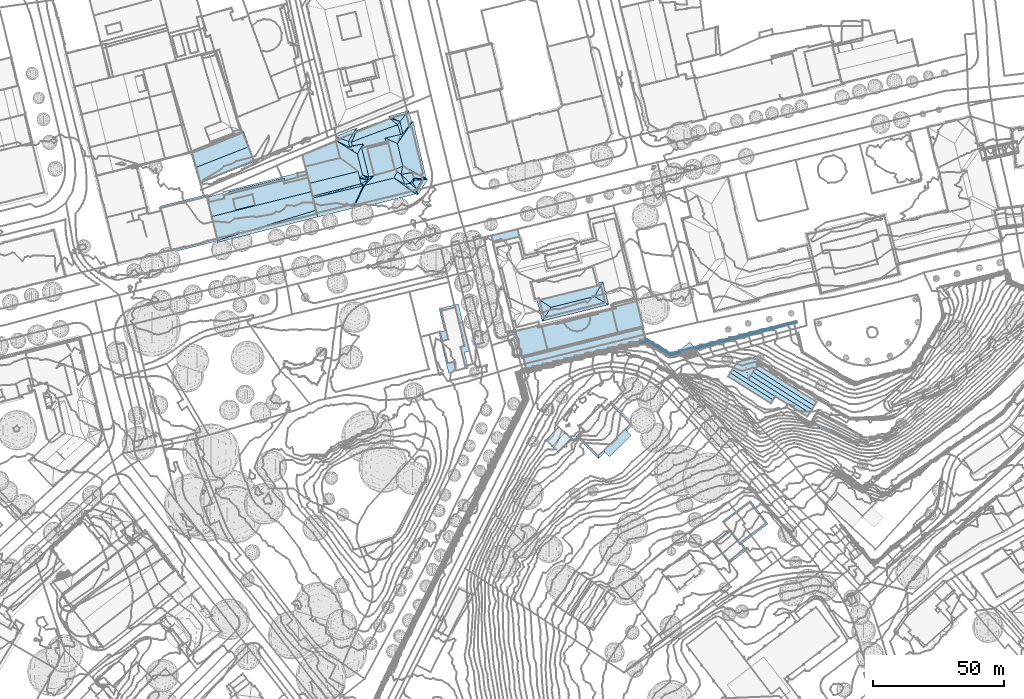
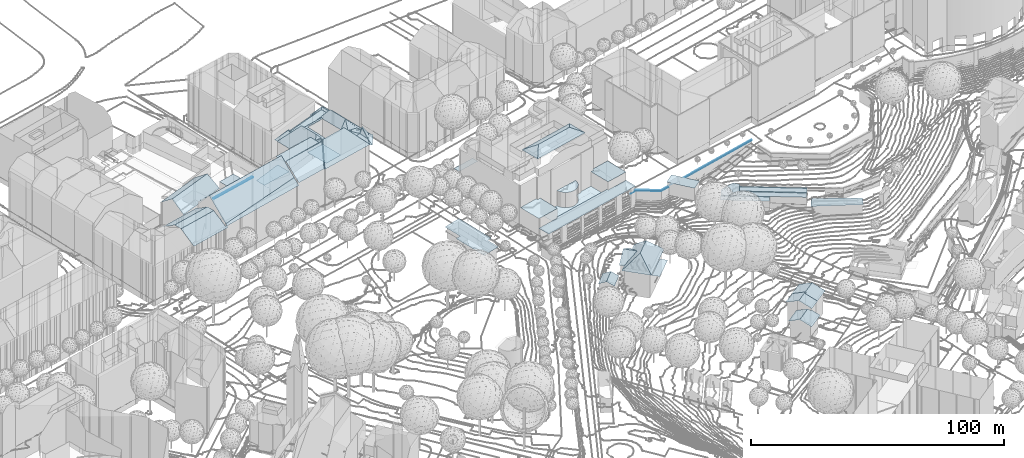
# Not in any storey, part 71 of 494: 29 roofs.
"""IFC2X3 model written with IfcOpenShell, lengths in metres."""

from ifc_helpers import new_model, si_unit, frame, origin_with_axes, place, context, subcontext, project, faceted_brep, element, save


model = new_model("IFC2X3")

# Units and contexts
model_context = context("Model", 3, precision=1e-05, world=origin_with_axes())
body_context = subcontext(model_context, "Body", "Model", "MODEL_VIEW")
ifc_project = project(units=[si_unit("AREAUNIT", "SQUARE_METRE"), si_unit("LENGTHUNIT", "METRE")], contexts=[model_context])

# Roofs
roof_1_placement = place(None, frame((211.8297320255, 101.9383160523, 526.7541), z_axis=(0.0, 0.0, 1.0), x_axis=(1.0, 0.0, 0.0)))
element("IfcRoof", 1, at=roof_1_placement, Name="Roof 59", ShapeType="NOTDEFINED", context=body_context, shape_type="Brep", body=[
    faceted_brep([(166.575000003, 220.0331999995, 13.5499), (166.9350000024, 219.5927999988, 13.5499), (205.8740000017, 229.5947000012, 13.5498), (161.3360000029, 218.8623000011, 13.5499), (169.6170000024, 220.9891999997, 13.5499), (205.7030000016, 230.2597000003, 13.5498)], [[[0, 1, 2]], [[3, 0, 4]], [[0, 5, 4]], [[5, 0, 2]]]),
])
roof_2_placement = place(None, frame((211.8297320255, 101.9383160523, 526.7541), z_axis=(0.0, 0.0, 1.0), x_axis=(1.0, 0.0, 0.0)))
element("IfcRoof", 2, at=roof_2_placement, Name="Roof 60", ShapeType="NOTDEFINED", context=body_context, shape_type="Brep", body=[
    faceted_brep([(146.0230000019, 221.7236000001, 13.5499), (147.1669999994, 222.0751999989, 13.5499), (146.006000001, 221.7910000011, 13.5499), (148.7010000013, 222.3691000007, 13.5499), (147.8399999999, 223.0126999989, 13.5499), (147.9849999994, 222.4013999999, 13.5499), (148.6390000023, 223.2098999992, 13.5499), (157.3320000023, 217.1259999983, 13.5499), (161.393000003, 218.1689000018, 13.5499), (160.9150000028, 218.754900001, 13.5499), (157.4409999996, 217.8623000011, 13.5499)], [[[0, 1, 2]], [[1, 0, 3]], [[4, 5, 6]], [[1, 3, 5]], [[7, 8, 9]], [[7, 9, 10]], [[10, 6, 3]], [[3, 6, 5]], [[3, 7, 10]]]),
])
roof_3_placement = place(None, frame((389.7587320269, 255.2674160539, 507.648), z_axis=(0.0, 0.0, 1.0), x_axis=(1.0, 0.0, 0.0)))
element("IfcRoof", 3, at=roof_3_placement, Name="Roof 0", ShapeType="NOTDEFINED", context=body_context, shape_type="Brep", body=[
    faceted_brep([(4.9050000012, 3.7089999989, 10.9299), (4.5109999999, 4.2304999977, 10.661), (-0.7430000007, 0.2694999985, 10.661), (7.9470000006, -0.308600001, 13.0067), (2.6840000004, -4.2754000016, 13.0067), (7.436999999, -1.125, 12.8617), (10.2269999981, -4.8115000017, 10.9179), (8.1559999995, -0.5850000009, 12.8607), (6.0439999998, -8.7314999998, 10.6609), (10.5969999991, -5.2998000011, 10.6609)], [[[0, 1, 2]], [[3, 0, 4]], [[2, 4, 0]], [[5, 4, 6]], [[3, 5, 7]], [[5, 3, 4]], [[6, 8, 9]], [[6, 4, 8]]]),
])
roof_4_placement = place(None, frame((394.6637320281, 258.9764160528, 507.648), z_axis=(0.0, 0.0, 1.0), x_axis=(1.0, 0.0, 0.0)))
element("IfcRoof", 4, at=roof_4_placement, Name="Roof 0", ShapeType="NOTDEFINED", context=body_context, shape_type="Brep", body=[
    faceted_brep([(8.5749999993, 0.1543000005, 13.0067), (5.1479999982, 4.6992000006, 10.661), (0.0, 0.0, 10.9299), (3.0419999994, -4.0175999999, 13.0067), (-0.3940000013, 0.5214999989, 10.661), (3.2509999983, -4.2939999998, 12.8607), (2.5319999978, -4.8339999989, 12.8617), (5.3219999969, -8.5205000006, 10.9179), (5.6919999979, -9.0088, 10.6609), (11.9340000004, -4.3018000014, 10.6609)], [[[0, 1, 2]], [[0, 2, 3]], [[2, 1, 4]], [[5, 6, 7]], [[7, 8, 9]], [[5, 9, 0]], [[9, 5, 7]], [[5, 0, 3]]]),
])
roof_5_placement = place(None, frame((386.3977320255, 247.3445160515, 507.147), z_axis=(0.0, 0.0, 1.0), x_axis=(1.0, 0.0, 0.0)))
element("IfcRoof", 5, at=roof_5_placement, Name="Roof 0", ShapeType="NOTDEFINED", context=body_context, shape_type="Brep", body=[
    faceted_brep([(6.0480000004, 4.5782000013, 8.3482), (5.950000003, 4.504900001, 8.3482), (7.0370000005, 3.2734999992, 9.0562), (2.6130000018, -3.4569999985, 10.229), (8.0980000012, 1.8731000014, 9.8171), (8.6740000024, 1.1132999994, 10.229), (5.5989999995, 4.9678000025, 8.0962), (-0.7829999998, 0.1563000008, 8.0962), (2.1840000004, -3.7802000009, 10.229), (12.2180000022, -2.5995999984, 8.0962), (9.4880000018, 0.0381000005, 9.6651), (5.2540000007, -7.8506000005, 8.0962), (9.9620000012, 0.3936000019, 9.6641)], [[[0, 1, 2]], [[3, 4, 2]], [[5, 4, 3]], [[1, 6, 7]], [[7, 2, 1]], [[8, 2, 7]], [[2, 8, 3]], [[9, 10, 11]], [[11, 10, 3]], [[8, 11, 3]], [[10, 5, 3]], [[9, 12, 10]]]),
])
roof_6_placement = place(None, frame((281.5977320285, 336.7850160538, 537.4764), z_axis=(0.0, 0.0, 1.0), x_axis=(1.0, 0.0, 0.0)))
element("IfcRoof", 6, at=roof_6_placement, Name="Roof 0", ShapeType="NOTDEFINED", context=body_context, shape_type="Brep", body=[
    faceted_brep([(8.993999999, -16.6152999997, 5.9413), (10.9890000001, -16.1358000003, 6.0503), (6.6339999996, 1.9403999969, 6.0504), (2.8789999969, -24.4356000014, 5.5294), (10.4389999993, -22.6133000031, 5.9413), (1.2559999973, -8.3057000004, 5.6454), (-0.7810000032, 0.1542999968, 5.6454), (-0.8840000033, -8.8203000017, 5.5294)], [[[0, 1, 2]], [[3, 4, 0]], [[0, 5, 3]], [[2, 6, 5]], [[5, 7, 3]], [[2, 5, 0]]]),
])
roof_7_placement = place(None, frame((334.3647320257, 288.1229160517, 521.6208), z_axis=(0.0, 0.0, 1.0), x_axis=(1.0, 0.0, 0.0)))
element("IfcRoof", 7, at=roof_7_placement, Name="Roof 0", ShapeType="NOTDEFINED", context=body_context, shape_type="Brep", body=[
    faceted_brep([(17.6900000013, 2.6709000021, 9.15), (9.3560000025, -5.5156999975, 9.15), (11.6319999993, -7.8271999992, 9.15), (19.9560000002, 0.3720000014, 9.15)], [[[0, 1, 2]], [[3, 0, 2]]]),
])
roof_8_placement = place(None, frame((334.3647320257, 288.1229160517, 521.6208), z_axis=(0.0, 0.0, 1.0), x_axis=(1.0, 0.0, 0.0)))
element("IfcRoof", 8, at=roof_8_placement, Name="Roof 1", ShapeType="NOTDEFINED", context=body_context, shape_type="Brep", body=[
    faceted_brep([(7.3910000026, -8.6015999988, 11.6748), (20.8610000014, 4.6678999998, 11.6748), (7.2990000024, -7.4619999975, 12.5817), (0.0529999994, -0.053799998, 12.6237), (-1.1529999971, 0.0760999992, 11.6748), (6.762000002, -0.7773999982, 17.9022), (1.6339999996, 2.5223999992, 11.8888), (8.2280000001, 4.1484000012, 15.3955), (1.2310000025, 2.4237999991, 11.6748), (13.1119999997, 5.4785000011, 17.9012), (12.444000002, 12.0898000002, 12.6667), (9.7870000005, 10.3857000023, 12.0108), (9.9420000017, 11.0058000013, 11.6748), (12.3170000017, 13.3436999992, 11.6748), (4.5730000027, 7.8612999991, 15.3955), (8.5670000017, 12.4013000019, 11.6748), (4.2690000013, 8.1689000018, 15.3955), (-0.1459999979, 3.821200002, 11.6748), (19.6040000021, 4.7998000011, 12.6847)], [[[0, 1, 2]], [[3, 4, 2]], [[2, 5, 3]], [[0, 2, 4]], [[6, 3, 7]], [[3, 8, 4]], [[8, 3, 6]], [[3, 5, 7]], [[7, 9, 10]], [[9, 7, 5]], [[7, 10, 11]], [[10, 12, 11]], [[12, 10, 13]], [[14, 7, 15]], [[16, 14, 15]], [[11, 12, 15]], [[11, 15, 7]], [[17, 8, 6]], [[17, 6, 14]], [[17, 14, 16]], [[14, 6, 7]], [[2, 18, 9]], [[2, 9, 5]], [[2, 1, 18]], [[18, 1, 10]], [[10, 9, 18]], [[13, 10, 1]]]),
])
roof_9_placement = place(None, frame((321.8457320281, 286.6092160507, 525.7514), z_axis=(0.0, 0.0, 1.0), x_axis=(1.0, 0.0, 0.0)))
element("IfcRoof", 9, at=roof_9_placement, Name="Roof 0", ShapeType="NOTDEFINED", context=body_context, shape_type="Brep", body=[
    faceted_brep([(2.1219999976, -2.3954999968, 7.8402), (4.5009999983, -4.6552999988, 6.2383), (7.2049999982, 2.9580000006, 7.8402), (9.5849999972, 0.6982000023, 6.2383), (4.807, 5.2344000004, 6.2384), (-0.2760000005, -0.1181999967, 6.2384)], [[[0, 1, 2]], [[3, 2, 1]], [[2, 4, 5]], [[5, 0, 2]]]),
])
roof_10_placement = place(None, frame((423.4767320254, 293.5516160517, 522.4066), z_axis=(0.0, 0.0, 1.0), x_axis=(1.0, 0.0, 0.0)))
element("IfcRoof", 10, at=roof_10_placement, Name="Roof 0", ShapeType="NOTDEFINED", context=body_context, shape_type="Brep", body=[
    faceted_brep([(1.8740000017, 4.5527000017, 7.4133), (-0.9709999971, -0.1425999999, 7.4133), (13.1080000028, -1.6152999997, 7.4133), (17.5460000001, -9.4072999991, 7.4132), (19.5710000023, -5.1651000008, 7.4132)], [[[0, 1, 2]], [[2, 3, 4]], [[3, 2, 1]]]),
])
roof_11_placement = place(None, frame((300.9637320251, 364.7801160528, 537.8963), z_axis=(0.0, 0.0, 1.0), x_axis=(1.0, 0.0, 0.0)))
element("IfcRoof", 11, at=roof_11_placement, Name="Roof 0", ShapeType="NOTDEFINED", context=body_context, shape_type="Brep", body=[
    faceted_brep([(46.1230000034, -28.1807000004, 1.8858), (40.6290000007, -29.5410000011, 1.8858), (40.7200000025, -29.9072000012, 1.8858), (48.307, -36.9941999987, 1.8857), (37.7380000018, -31.495099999, 1.8858), (37.6600000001, -32.3828000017, 1.8858), (37.6650000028, -30.6640999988, 1.8858), (37.4299999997, -33.2432000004, 1.8858), (37.0540000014, -34.0507999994, 1.8858), (36.2420000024, -35.1084000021, 1.8858), (35.5590000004, -35.6816999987, 1.8858), (34.376000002, -36.2978999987, 1.8858), (33.5160000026, -36.5274000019, 1.8858), (27.9980000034, -33.6552999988, 1.8858), (27.7990000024, -33.1084000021, 1.8858), (24.6359999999, -33.8925999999, 1.8858), (28.443, -34.4268000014, 1.8858), (24.5450000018, -33.5263999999, 1.8858), (19.2240000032, -34.8456999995, 1.8858), (29.0160000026, -35.1084000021, 1.8858), (21.4079999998, -43.6601999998, 1.8858), (32.6290000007, -36.6055000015, 1.8858), (31.7410000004, -36.5274000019, 1.8858), (30.074000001, -35.9199000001, 1.8858), (30.881000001, -36.2978999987, 1.8858)], [[[0, 1, 2]], [[3, 0, 2]], [[4, 5, 2]], [[6, 4, 2]], [[7, 2, 5]], [[3, 7, 8]], [[7, 3, 2]], [[3, 8, 9]], [[10, 11, 3]], [[9, 10, 3]], [[3, 11, 12]], [[13, 14, 15]], [[16, 13, 15]], [[15, 17, 18]], [[16, 15, 19]], [[20, 15, 18]], [[21, 22, 20]], [[12, 21, 20]], [[23, 19, 20]], [[24, 20, 22]], [[20, 24, 23]], [[19, 15, 20]], [[12, 20, 3]]]),
])
roof_12_placement = place(None, frame((300.9637320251, 364.7801160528, 537.8963), z_axis=(0.0, 0.0, 1.0), x_axis=(1.0, 0.0, 0.0)))
element("IfcRoof", 12, at=roof_12_placement, Name="Roof 1", ShapeType="NOTDEFINED", context=body_context, shape_type="Brep", body=[
    faceted_brep([(11.7410000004, -46.7881000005, 9.588), (21.5789999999, -44.3506000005, 9.588), (17.8630000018, -35.182599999, 9.588), (9.1720000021, -36.5390999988, 9.588), (17.6770000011, -34.4316999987, 9.588), (19.2240000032, -34.8456999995, 9.588)], [[[0, 1, 2]], [[2, 3, 0]], [[3, 2, 4]], [[5, 2, 1]]]),
])
roof_13_placement = place(None, frame((300.9637320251, 364.7801160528, 537.8963), z_axis=(0.0, 0.0, 1.0), x_axis=(1.0, 0.0, 0.0)))
element("IfcRoof", 13, at=roof_13_placement, Name="Roof 2", ShapeType="NOTDEFINED", context=body_context, shape_type="Brep", body=[
    faceted_brep([(47.5280000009, -27.8321000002, 8.9001), (55.5190000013, -25.0557000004, 8.9001), (47.3420000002, -27.0811000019, 8.9001), (48.4780000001, -37.6865000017, 8.9001), (58.0370000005, -35.317400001, 8.9001), (46.1230000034, -28.1807000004, 8.9001)], [[[0, 1, 2]], [[0, 3, 4]], [[3, 0, 5]], [[0, 4, 1]]]),
])
roof_14_placement = place(None, frame((300.9637320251, 364.7801160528, 537.8963), z_axis=(0.0, 0.0, 1.0), x_axis=(1.0, 0.0, 0.0)))
element("IfcRoof", 14, at=roof_14_placement, Name="Roof 3", ShapeType="NOTDEFINED", context=body_context, shape_type="Brep", body=[
    faceted_brep([(58.0370000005, -35.317400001, 4.9124), (48.4780000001, -37.6865000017, 4.9124), (59.3660000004, -40.7344000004, 4.9124), (21.5789999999, -44.3506000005, 4.9125), (48.307, -36.9941999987, 4.9124), (12.2380000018, -46.6172000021, 4.9125), (11.7280000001, -46.7373000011, 4.9125), (12.2490000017, -46.6621000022, 4.9125), (13.0970000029, -52.1983000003, 4.9125), (21.4079999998, -43.6601999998, 4.9125)], [[[0, 1, 2]], [[2, 1, 3]], [[4, 3, 1]], [[5, 6, 7]], [[3, 7, 8]], [[8, 7, 6]], [[3, 8, 2]], [[9, 3, 4]]]),
])
roof_15_placement = place(None, frame((300.9637320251, 364.7801160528, 537.8963), z_axis=(0.0, 0.0, 1.0), x_axis=(1.0, 0.0, 0.0)))
element("IfcRoof", 15, at=roof_15_placement, Name="Roof 4", ShapeType="NOTDEFINED", context=body_context, shape_type="Brep", body=[
    faceted_brep([(41.8160000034, -18.8251999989, 27.5583), (42.5380000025, -17.5811000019, 26.9544), (17.1660000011, -23.8672000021, 26.9544), (39.2520000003, -23.246100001, 29.7051), (18.3850000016, -24.6319000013, 27.5583), (22.7170000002, -27.3438000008, 29.7051), (19.3300000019, -32.6015999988, 27.0464), (20.120000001, -31.375, 27.6663), (43.432, -25.6006000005, 27.6663), (44.7020000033, -26.3154000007, 27.0463)], [[[0, 1, 2]], [[3, 0, 4]], [[3, 4, 5]], [[4, 0, 2]], [[4, 2, 6]], [[4, 7, 5]], [[7, 4, 6]], [[7, 6, 8]], [[5, 7, 3]], [[7, 8, 3]], [[8, 6, 9]], [[8, 9, 0]], [[8, 0, 3]], [[0, 9, 1]]]),
])
roof_16_placement = place(None, frame((300.9637320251, 364.7801160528, 537.8963), z_axis=(0.0, 0.0, 1.0), x_axis=(1.0, 0.0, 0.0)))
element("IfcRoof", 16, at=roof_16_placement, Name="Roof 5", ShapeType="NOTDEFINED", context=body_context, shape_type="Brep", body=[
    faceted_brep([(37.6600000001, -32.3828000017, 9.1841), (29.0160000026, -35.1084000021, 9.1841), (37.4299999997, -33.2432000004, 9.1841), (30.074000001, -35.9199000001, 9.1841), (37.0540000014, -34.0507999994, 9.1841), (28.443, -34.4268000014, 9.1841), (37.7380000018, -31.495099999, 9.1841), (31.7410000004, -36.5274000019, 9.1841), (35.5590000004, -35.6816999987, 9.1841), (36.2420000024, -35.1084000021, 9.1841), (32.6290000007, -36.6055000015, 9.1841), (34.376000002, -36.2978999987, 9.1841), (30.881000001, -36.2978999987, 9.1841), (37.6650000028, -30.6640999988, 9.1841), (27.9980000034, -33.6552999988, 9.1841), (33.5160000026, -36.5274000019, 9.1841), (27.7990000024, -33.1084000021, 9.1841)], [[[0, 1, 2]], [[2, 3, 4]], [[5, 0, 6]], [[7, 8, 9]], [[10, 11, 8]], [[12, 9, 4]], [[6, 13, 14]], [[5, 1, 0]], [[14, 5, 6]], [[3, 2, 1]], [[15, 11, 10]], [[7, 10, 8]], [[9, 12, 7]], [[3, 12, 4]], [[14, 13, 16]]]),
])
roof_17_placement = place(None, frame((300.9637320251, 364.7801160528, 537.8963), z_axis=(0.0, 0.0, 1.0), x_axis=(1.0, 0.0, 0.0)))
element("IfcRoof", 17, at=roof_17_placement, Name="Roof 12", ShapeType="NOTDEFINED", context=body_context, shape_type="Brep", body=[
    faceted_brep([(10.6750000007, -0.3858000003, 9.4711), (9.9670000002, 2.4765000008, 9.4711), (0.7080000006, -2.8544999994, 9.4711), (0.0, 0.0, 9.4711)], [[[0, 1, 2]], [[3, 2, 1]]]),
])
roof_18_placement = place(None, frame((372.7347320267, 320.7049160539, 536.4583), z_axis=(0.0, 0.0, 1.0), x_axis=(1.0, 0.0, 0.0)))
element("IfcRoof", 18, at=roof_18_placement, Name="Roof 0", ShapeType="NOTDEFINED", context=body_context, shape_type="Brep", body=[
    faceted_brep([(7.2459999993, -9.067400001, 5.9384), (11.4770000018, -5.6425999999, 5.9384), (3.9670000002, 3.5175999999, 5.9385), (-0.2459999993, 0.0848999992, 5.9385)], [[[0, 1, 2]], [[2, 3, 0]]]),
])
roof_19_placement = place(None, frame((391.3277320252, 310.9148160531, 527.1172), z_axis=(0.0, 0.0, 1.0), x_axis=(1.0, 0.0, 0.0)))
element("IfcRoof", 19, at=roof_19_placement, Name="Roof 0", ShapeType="NOTDEFINED", context=body_context, shape_type="Brep", body=[
    faceted_brep([(31.2369999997, -13.9023000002, 6.9823), (32.0840000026, -12.5615000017, 6.0964), (9.5300000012, 1.6796999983, 6.0964), (8.6830000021, 0.3378999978, 6.9823), (30.3090000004, -15.3720000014, 6.0964), (18.0890000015, -7.6561999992, 6.0964), (7.7550000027, -1.1308000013, 6.0964), (8.2710000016, 6.7128999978, 6.6644), (4.3859999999, 5.6865999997, 6.6644), (6.700000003, 4.2256000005, 6.6644), (11.2880000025, 4.4638999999, 6.0964), (9.9020000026, 7.1435999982, 6.4904), (12.0410000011, 5.6563000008, 6.0964), (11.0810000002, 4.1347999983, 6.0964), (7.9640000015, -0.7987999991, 6.0964), (9.3390000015, 1.3770000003, 6.0964), (9.7420000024, 2.0156999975, 6.0964), (10.4189999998, 3.0869999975, 6.9343), (33.8420000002, -9.7773000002, 6.0964), (32.9730000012, -11.1543000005, 6.9343), (1.700000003, 2.691399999, 6.0964), (0.9010000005, 1.4267999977, 6.9543), (17.2910000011, -8.9199000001, 6.9543), (3.4290000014, 5.433600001, 6.5614), (0.0, 9.9998e-05, 6.0964), (16.3900000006, -10.3465999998, 6.0964)], [[[0, 1, 2]], [[2, 3, 0]], [[4, 0, 5]], [[5, 3, 6]], [[3, 5, 0]], [[7, 8, 9]], [[10, 11, 7]], [[10, 7, 9]], [[10, 12, 11]], [[13, 10, 9]], [[9, 14, 15]], [[13, 9, 16]], [[2, 9, 15]], [[9, 2, 16]], [[14, 9, 6]], [[10, 17, 18]], [[19, 18, 17]], [[1, 19, 17]], [[17, 2, 1]], [[20, 21, 6]], [[6, 22, 5]], [[22, 6, 21]], [[23, 20, 6]], [[23, 9, 8]], [[9, 23, 6]], [[21, 24, 25]], [[25, 22, 21]]]),
])
roof_20_placement = place(None, frame((228.7347320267, 395.6180160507, 538.6455), z_axis=(0.0, 0.0, 1.0), x_axis=(1.0, 0.0, 0.0)))
element("IfcRoof", 20, at=roof_20_placement, Name="Roof 0", ShapeType="NOTDEFINED", context=body_context, shape_type="Brep", body=[
    faceted_brep([(19.625, -19.1503999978, 21.6717), (23.1460000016, -11.6894999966, 27.3042), (18.6689999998, -18.9736999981, 22.0267), (3.9670000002, -16.4013999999, 27.3472), (16.0890000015, -19.6074999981, 22.0277), (5.0789999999, -21.0566999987, 23.1126), (22.2609999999, -10.9980999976, 26.7853), (3.8020000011, -15.7118999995, 26.6483), (3.3779999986, -13.9375, 26.6823), (21.7710000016, -8.9531999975, 26.7273), (2.6319999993, -10.807599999, 26.7433), (21.1030000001, -6.2157999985, 26.7433), (1.1110000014, -4.4423999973, 20.396), (14.3409999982, -1.1757999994, 20.396), (42.8729999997, -12.9179999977, 22.1237), (42.9620000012, -13.4443999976, 21.6717), (43.4210000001, -12.9111999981, 22.1227), (43.3740000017, -13.3447999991, 21.7527), (43.2060000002, -14.8945999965, 20.4278), (41.2419999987, -13.1210999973, 22.2337), (39.0839999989, -11.1718999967, 24.2185), (40.9609999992, -10.7743999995, 24.3575), (37.5469999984, -7.2978999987, 24.8404), (21.995000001, -18.7148999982, 22.1097), (19.2030000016, -20.8740999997, 20.8098), (43.2060000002, -14.8945999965, 20.8098), (41.7280000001, -13.8037, 22.1067), (34.8830000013, -8.7490999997, 28.1121), (20.2829999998, -18.5761999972, 22.6206), (23.5579999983, -11.6083999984, 28.1121), (5.4219999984, -22.4912, 21.8347), (5.7060000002, -23.6816999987, 20.7758), (19.0709999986, -20.3359999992, 20.7788), (42.1039999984, -10.6269999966, 26.5843), (42.4719999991, -8.6963, 24.3585), (27.3429999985, -7.7919999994, 24.8124), (35.2960000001, -5.6269999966, 24.7074), (36.1510000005, -6.3896999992, 25.7693), (41.8900000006, -13.7060999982, 21.8977)], [[[0, 1, 2]], [[3, 2, 1]], [[0, 2, 4]], [[4, 3, 5]], [[3, 4, 2]], [[3, 1, 6]], [[3, 6, 7]], [[8, 6, 9]], [[6, 8, 7]], [[10, 9, 11]], [[9, 10, 8]], [[11, 12, 10]], [[12, 11, 13]], [[14, 15, 16]], [[17, 16, 15]], [[18, 17, 15]], [[19, 18, 15]], [[20, 15, 14]], [[20, 19, 15]], [[20, 14, 21]], [[21, 22, 20]], [[23, 24, 25]], [[26, 27, 23]], [[25, 26, 23]], [[28, 24, 23]], [[27, 29, 28]], [[27, 28, 23]], [[30, 31, 4]], [[5, 30, 4]], [[4, 32, 0]], [[32, 4, 31]], [[29, 1, 0]], [[29, 6, 1]], [[28, 29, 0]], [[0, 24, 28]], [[24, 0, 32]], [[33, 34, 21]], [[16, 33, 21]], [[21, 14, 16]], [[35, 27, 36]], [[29, 27, 35]], [[36, 27, 37]], [[20, 27, 38]], [[26, 25, 38]], [[26, 38, 27]]]),
])
roof_21_placement = place(None, frame((228.7347320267, 395.6180160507, 538.6455), z_axis=(0.0, 0.0, 1.0), x_axis=(1.0, 0.0, 0.0)))
element("IfcRoof", 21, at=roof_21_placement, Name="Roof 1", ShapeType="NOTDEFINED", context=body_context, shape_type="Brep", body=[
    faceted_brep([(27.3429999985, -7.7919999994, 12.8646), (35.2960000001, -5.6269999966, 12.8646), (24.7540000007, 2.5117000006, 12.8647), (32.8029999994, 4.5224000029, 12.8647)], [[[0, 1, 2]], [[3, 2, 1]]]),
])
roof_22_placement = place(None, frame((228.7347320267, 395.6180160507, 538.6455), z_axis=(0.0, 0.0, 1.0), x_axis=(1.0, 0.0, 0.0)))
element("IfcRoof", 22, at=roof_22_placement, Name="Roof 2", ShapeType="NOTDEFINED", context=body_context, shape_type="Brep", body=[
    faceted_brep([(12.7360000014, 5.2226000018, 9.4711), (0.0, 0.0, 9.4711), (12.7609999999, 5.0957000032, 9.4711), (1.1110000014, -4.4423999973, 9.4711), (14.3409999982, -1.1757999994, 9.4711), (1.8299999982, -7.4208999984, 9.4709), (1.436999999, -6.2275999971, 9.4709), (1.4510000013, -6.2812999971, 9.4709), (1.7210000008, -7.4491999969, 9.4709)], [[[0, 1, 2]], [[3, 4, 2]], [[2, 1, 3]], [[5, 6, 7]], [[6, 3, 1]], [[7, 8, 5]], [[5, 3, 6]]]),
])
roof_23_placement = place(None, frame((228.7347320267, 395.6180160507, 538.6455), z_axis=(0.0, 0.0, 1.0), x_axis=(1.0, 0.0, 0.0)))
element("IfcRoof", 23, at=roof_23_placement, Name="Roof 3", ShapeType="NOTDEFINED", context=body_context, shape_type="Brep", body=[
    faceted_brep([(24.7540000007, 2.5117000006, 25.1536), (32.8949999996, 4.5459000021, 25.0356), (32.8649999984, 5.2031000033, 25.1636), (32.8720000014, 5.2431000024, 25.1706), (32.8740000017, 5.3310000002, 25.1746), (23.4340000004, 2.9277000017, 25.1876), (23.0590000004, 4.2256000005, 23.8787), (23.4340000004, 2.9277000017, 23.8787), (31.7120000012, 5.0254000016, 23.8787), (18.9479999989, 3.5537, 23.8787), (18.5760000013, 4.9287, 23.8787), (22.1730000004, 6.3720000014, 23.8787), (25.936999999, 7.7832000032, 23.8787), (31.4820000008, 6.4970000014, 23.8787), (37.4210000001, 7.9004000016, 23.8787), (29.6770000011, 9.1865000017, 23.8787), (36.3379999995, 11.5918000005, 23.8787), (21.1499999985, 8.9306000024, 21.2969), (20.8729999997, 9.6240000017, 20.598), (19.8900000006, 8.5215000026, 21.7129), (20.5659999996, 10.371100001, 20.598), (38.2259999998, 8.0517000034, 24.3356), (37.1790000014, 12.826100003, 24.3256), (33.3299999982, 13.9375, 20.906), (33.0179999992, 14.1806000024, 20.598), (32.6750000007, 13.6689000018, 20.934), (13.1319999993, 5.5293000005, 20.955), (17.9719999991, 2.9267000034, 24.3256), (17.449000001, 5.2617000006, 24.3026), (12.6710000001, 5.558600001, 20.598), (12.3779999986, 7.0556000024, 20.598), (19.2870000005, 8.2744000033, 22.1179), (21.7710000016, -8.9531999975, 26.7273), (24.8509999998, -9.5175999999, 26.3523), (24.6409999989, -8.6933999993, 26.6483), (22.2609999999, -10.9980999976, 26.7853), (23.5579999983, -11.6083999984, 28.1121), (27.3429999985, -7.7919999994, 24.8124), (22.5219999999, 2.7060000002, 25.1776), (25.2419999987, -8.3622999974, 24.8324), (42.4719999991, -8.6963, 24.3585), (45.6339999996, -9.4638999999, 22.1227), (45.1660000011, -8.9941999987, 22.1237), (42.0009999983, -6.7197999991, 24.2085), (37.5469999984, -7.2978999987, 24.8404), (42.0009999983, -6.7197999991, 24.2475), (40.9609999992, -10.7743999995, 24.3575), (47.2309999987, -8.9111999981, 20.5148), (45.875, -8.3437999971, 21.4727), (45.7699999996, -8.9706999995, 21.6527), (45.5839999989, -8.2216999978, 21.6777), (45.8729999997, -9.3808999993, 21.8827), (45.8889999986, -9.4463, 21.9267), (47.8409999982, -9.3115999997, 20.4288), (43.2060000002, -14.8945999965, 20.4278), (44.0410000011, -15.2343999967, 20.4238), (43.3740000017, -13.3447999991, 21.7527), (43.5269999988, -13.3066999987, 21.8337), (43.4210000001, -12.9111999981, 22.1227), (40.745000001, 11.4199000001, 21.6309), (41.7080000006, 12.7070000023, 20.598), (40.4200000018, 12.7412, 21.6579), (39.3669999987, 15.5918000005, 21.8629), (40.4910000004, 17.0117000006, 20.598), (45.5329999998, -8.0156999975, 22.2007), (47.2309999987, -8.9111999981, 20.7848), (45.7930000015, -7.1689999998, 21.7637), (36.1909999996, 4.4638000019, 28.2983), (38.2120000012, -4.1493999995, 28.3072), (42.1970000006, 12.9306000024, 20.598), (40.8429999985, 11.0224000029, 22.3338), (35.2960000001, -5.6269999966, 24.9944), (34.8830000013, -8.7490999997, 28.1121), (36.1510000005, -6.3896999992, 25.7693), (32.8029999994, 4.5224000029, 24.9386), (32.6649999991, 5.2773000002, 24.9746), (32.6229999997, 5.2568000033, 24.9346), (32.8029999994, 14.8164000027, 20.598), (34.006000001, 14.2695000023, 21.6229), (20.868999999, 0.4726000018, 28.3673), (12.7109999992, 5.3545000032, 20.598), (12.7609999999, 5.0957000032, 20.598), (22.8859999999, -7.566399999, 28.3581), (22.6609999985, 2.7392000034, 24.9796), (42.6920000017, -9.5058999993, 26.5843), (45.5839999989, -8.2216999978, 21.8627), (42.1039999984, -10.6269999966, 26.5843), (40.7969999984, 11.2109000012, 21.9159), (39.0839999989, -11.1718999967, 24.2185), (21.1030000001, -6.2158999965, 26.7433), (14.3409999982, -1.1757999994, 20.598), (35.2960000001, -5.6269999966, 24.7944), (37.5469999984, -7.2978999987, 24.6404), (36.1510000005, -6.3896999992, 25.5694)], [[[0, 1, 2]], [[2, 3, 0]], [[3, 4, 5]], [[5, 0, 3]], [[6, 7, 8]], [[9, 6, 10]], [[10, 6, 11]], [[6, 12, 11]], [[13, 14, 15]], [[13, 12, 6]], [[13, 15, 12]], [[15, 14, 16]], [[13, 6, 8]], [[10, 11, 17]], [[10, 17, 18]], [[19, 10, 18]], [[18, 20, 19]], [[21, 22, 16]], [[21, 16, 14]], [[16, 22, 23]], [[24, 23, 22]], [[25, 15, 16]], [[25, 23, 24]], [[23, 25, 16]], [[26, 27, 28]], [[27, 26, 29]], [[30, 29, 26]], [[26, 28, 30]], [[28, 10, 31]], [[31, 19, 20]], [[19, 31, 10]], [[31, 20, 30]], [[30, 28, 31]], [[28, 27, 10]], [[10, 27, 9]], [[32, 33, 34]], [[33, 32, 35]], [[36, 37, 33]], [[38, 0, 5]], [[38, 39, 0]], [[0, 39, 37]], [[27, 6, 9]], [[40, 41, 42]], [[42, 43, 40]], [[44, 40, 45]], [[40, 44, 46]], [[47, 48, 49]], [[49, 48, 50]], [[43, 42, 49]], [[43, 49, 50]], [[42, 41, 49]], [[51, 47, 49]], [[51, 49, 41]], [[41, 52, 51]], [[51, 53, 47]], [[53, 51, 52]], [[54, 55, 56]], [[56, 57, 58]], [[57, 56, 55]], [[22, 21, 59]], [[59, 60, 61]], [[59, 61, 22]], [[61, 60, 62]], [[61, 62, 22]], [[62, 60, 63]], [[64, 65, 66]], [[67, 68, 64]], [[67, 64, 66]], [[66, 65, 69]], [[66, 70, 67]], [[70, 66, 69]], [[44, 68, 71]], [[72, 44, 73]], [[1, 71, 67]], [[71, 1, 74]], [[1, 67, 2]], [[25, 24, 18]], [[15, 25, 17]], [[17, 12, 15]], [[11, 12, 17]], [[17, 25, 18]], [[67, 4, 3]], [[4, 67, 13]], [[3, 2, 67]], [[4, 13, 75]], [[75, 13, 76]], [[57, 55, 53]], [[58, 57, 52]], [[58, 52, 41]], [[52, 57, 53]], [[77, 24, 78]], [[24, 22, 78]], [[62, 63, 77]], [[78, 22, 62]], [[77, 78, 62]], [[14, 67, 21]], [[13, 67, 14]], [[76, 13, 8]], [[29, 79, 27]], [[79, 29, 80]], [[79, 80, 81]], [[79, 6, 27]], [[39, 79, 82]], [[39, 82, 34]], [[32, 34, 82]], [[33, 39, 34]], [[36, 33, 35]], [[33, 37, 39]], [[7, 6, 83]], [[38, 83, 6]], [[84, 41, 40]], [[85, 65, 64]], [[68, 43, 85]], [[68, 85, 64]], [[45, 68, 44]], [[58, 84, 86]], [[84, 58, 41]], [[40, 86, 84]], [[21, 67, 87]], [[70, 69, 87]], [[70, 87, 67]], [[69, 60, 87]], [[59, 21, 87]], [[59, 87, 60]], [[67, 71, 68]], [[72, 88, 44]], [[82, 89, 32]], [[89, 82, 79]], [[79, 81, 90]], [[79, 90, 89]], [[38, 6, 79]], [[79, 39, 38]], [[44, 71, 73]], [[91, 92, 93]]]),
])
roof_24_placement = place(None, frame((171.6827320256, 464.931416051, 544.4901), z_axis=(0.0, 0.0, 1.0), x_axis=(1.0, 0.0, 0.0)))
element("IfcRoof", 24, at=roof_24_placement, Name="Roof 0", ShapeType="NOTDEFINED", context=body_context, shape_type="Brep", body=[
    faceted_brep([(15.8440000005, -74.186499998, 12.1367), (16.4210000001, -74.1268999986, 12.0287), (16.3780000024, -73.9764999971, 12.1367), (37.4580000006, -71.9287, 8.0801), (38.8060000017, -71.7879999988, 7.8271), (36.3260000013, -66.1415999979, 12.1367), (36.6099999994, -66.0301999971, 12.1367), (17.6390000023, -80.2127999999, 7.456), (34.3580000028, -60.125, 7.4561), (33.6680000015, -60.3954999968, 7.4561), (14.6510000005, -67.8622999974, 7.4561), (14.1190000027, -68.0711999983, 7.4561), (14.1380000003, -68.1405999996, 7.5091), (14.2369999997, -68.4891999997, 7.7761)], [[[0, 1, 2]], [[2, 1, 3]], [[3, 4, 5]], [[6, 5, 4]], [[3, 5, 2]], [[0, 7, 1]], [[3, 1, 7]], [[4, 3, 7]], [[8, 9, 6]], [[5, 6, 9]], [[10, 2, 5]], [[5, 9, 10]], [[10, 11, 12]], [[0, 2, 13]], [[12, 13, 10]], [[13, 2, 10]]]),
])
roof_25_placement = place(None, frame((192.1757320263, 379.5145160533, 538.5554), z_axis=(0.0, 0.0, 1.0), x_axis=(1.0, 0.0, 0.0)))
element("IfcRoof", 25, at=roof_25_placement, Name="Roof 0", ShapeType="NOTDEFINED", context=body_context, shape_type="Brep", body=[
    faceted_brep([(6.7259999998, -0.5030000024, 6.9833), (0.5670000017, -0.808600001, 6.9833), (0.8410000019, -1.9375, 6.9833), (0.2219999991, -0.8956000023, 6.9833), (-0.0009999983, 0.0, 6.9833), (6.5610000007, 0.6952999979, 6.9833), (9.6050000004, 1.9208999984, 6.9833), (6.1140000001, 1.5340999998, 6.9833), (29.0920000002, 6.7674999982, 6.9833), (5.9710000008, 2.1034999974, 6.9833), (6.4389999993, 0.6464000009, 6.9833), (34.8090000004, 7.7840999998, 6.9833), (29.2349999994, 6.1952999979, 6.9833), (34.8520000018, 7.5946999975, 6.9833), (8.5080000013, 1.4793999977, 6.9833), (8.5780000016, 1.2010999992, 6.9833), (38.3520000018, 8.6717999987, 6.9833), (37.993999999, 9.875, 6.9833), (37.9389999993, 10.1229999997, 6.9833)], [[[0, 1, 2]], [[3, 1, 4]], [[1, 5, 4]], [[4, 6, 7]], [[8, 9, 7]], [[1, 0, 10]], [[11, 12, 13]], [[5, 14, 4]], [[6, 4, 14]], [[15, 14, 5]], [[1, 10, 5]], [[8, 11, 16]], [[8, 12, 11]], [[16, 17, 8]], [[17, 18, 8]], [[18, 9, 8]], [[8, 7, 6]]]),
])
roof_26_placement = place(None, frame((192.1757320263, 379.5145160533, 538.5554), z_axis=(0.0, 0.0, 1.0), x_axis=(1.0, 0.0, 0.0)))
element("IfcRoof", 26, at=roof_26_placement, Name="Roof 1", ShapeType="NOTDEFINED", context=body_context, shape_type="Brep", body=[
    faceted_brep([(13.3830000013, -13.6475000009, 20.604), (3.7120000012, -16.6240999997, 20.105), (42.2650000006, -7.5782000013, 19.588), (41.9809999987, -6.3877000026, 20.7099), (41.6380000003, -4.9532000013, 22.0628), (3.8960000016, -17.322300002, 19.4281)], [[[0, 1, 2]], [[0, 3, 4]], [[3, 0, 2]], [[2, 1, 5]]]),
])
roof_27_placement = place(None, frame((192.1757320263, 379.5145160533, 538.5554), z_axis=(0.0, 0.0, 1.0), x_axis=(1.0, 0.0, 0.0)))
element("IfcRoof", 27, at=roof_27_placement, Name="Roof 2", ShapeType="NOTDEFINED", context=body_context, shape_type="Brep", body=[
    faceted_brep([(29.4479999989, 7.2802000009, 19.4131), (8.5780000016, 1.2010999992, 19.4131), (29.1900000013, 6.373999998, 19.4131), (8.3790000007, 1.995099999, 19.4131), (29.2349999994, 6.1952999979, 19.4131), (29.6920000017, 6.3094999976, 19.4131)], [[[0, 1, 2]], [[1, 0, 3]], [[4, 5, 2]], [[2, 5, 0]]]),
])
roof_28_placement = place(None, frame((192.1757320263, 379.5145160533, 538.5554), z_axis=(0.0, 0.0, 1.0), x_axis=(1.0, 0.0, 0.0)))
element("IfcRoof", 28, at=roof_28_placement, Name="Roof 3", ShapeType="NOTDEFINED", context=body_context, shape_type="Brep", body=[
    faceted_brep([(9.9880000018, -0.7998000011, 28.5792), (11.0020000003, -4.8476999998, 28.6892), (18.4120000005, -2.9873000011, 28.6892), (17.3969999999, 1.0594999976, 28.5792), (40.4420000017, 0.0506999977, 26.8834), (13.3830000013, -13.6475000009, 20.604), (41.6380000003, -4.9532000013, 22.0628), (1.8319999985, -7.3955000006, 28.9202), (39.936999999, 2.1659999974, 28.9202), (1.432, -7.496100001, 28.9202), (3.7120000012, -16.6240999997, 20.105), (9.9880000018, -0.7998000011, 24.6616), (10.9499999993, -4.6416000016, 28.4832), (-0.193, -1.0, 22.4578), (0.2219999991, -0.8955000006, 22.4578), (0.5670000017, -0.808600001, 22.4578), (6.5610000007, 0.6952999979, 22.4578), (18.3599999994, -2.7822999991, 28.4832), (39.3830000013, 4.4872999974, 26.6174), (17.3969999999, 1.0594999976, 24.6626), (29.1900000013, 6.373999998, 22.4578), (34.8090000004, 7.7840999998, 22.4578), (38.3819999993, 8.6805999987, 22.4578)], [[[0, 1, 2]], [[2, 3, 0]], [[4, 5, 6]], [[7, 4, 8]], [[7, 9, 5]], [[10, 5, 9]], [[7, 5, 4]], [[11, 9, 7]], [[1, 12, 7]], [[7, 2, 1]], [[13, 9, 11]], [[11, 14, 13]], [[11, 15, 14]], [[15, 11, 16]], [[11, 7, 12]], [[17, 2, 8]], [[8, 18, 17]], [[2, 7, 8]], [[17, 18, 19]], [[19, 20, 16]], [[18, 20, 19]], [[18, 21, 20]], [[18, 22, 21]], [[19, 16, 11]]]),
])
roof_29_placement = place(None, frame((174.5787320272, 375.3924160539, 537.4785), z_axis=(0.0, 0.0, 1.0), x_axis=(1.0, 0.0, 0.0)))
element("IfcRoof", 29, at=roof_29_placement, Name="Roof 0", ShapeType="NOTDEFINED", context=body_context, shape_type="Brep", body=[
    faceted_brep([(19.9679999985, -5.4502000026, 23.7517), (19.0949999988, -1.9277000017, 23.7517), (2.4510000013, -9.818400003, 23.7517), (1.5749999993, -6.2988000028, 23.7517), (17.9519999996, 5.2782999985, 18.9892), (18.1640000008, 3.3134999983, 20.272), (18.7069999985, 2.25, 21.034), (17.8189999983, 3.2264999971, 20.272), (0.0, 0.0, 19.4981), (0.2809999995, -1.1045000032, 20.245), (-0.188000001, 0.753899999, 18.9892), (18.438000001, 2.1845999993, 21.033), (21.5590000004, -11.8701000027, 19.4701), (4.0529999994, -16.2578000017, 19.4561), (4.2300000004, -16.9580000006, 18.9891), (21.9419999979, -11.7754000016, 19.4691), (22.368999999, -12.433600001, 18.9891), (22.1359999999, -11.501000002, 19.6121), (21.8889999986, -11.5615000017, 19.6121)], [[[0, 1, 2]], [[3, 2, 1]], [[4, 5, 6]], [[7, 8, 9]], [[8, 7, 4]], [[4, 7, 5]], [[10, 8, 4]], [[3, 1, 7]], [[9, 3, 7]], [[5, 11, 6]], [[12, 13, 14]], [[15, 12, 16]], [[16, 12, 14]], [[0, 2, 12]], [[12, 2, 13]], [[15, 17, 18]], [[15, 16, 17]]]),
])

save(model, "model.ifc")
